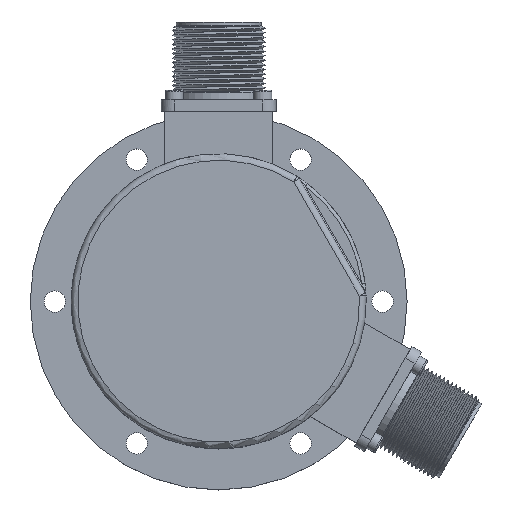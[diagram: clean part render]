
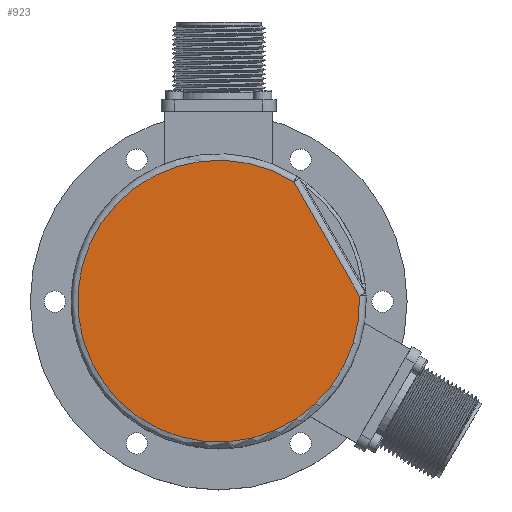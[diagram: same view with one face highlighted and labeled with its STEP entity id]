
A CAD part, top view. The second image highlights one B-rep face of the part: STEP entity #923.
In plain terms, the highlighted planar face has unit normal (0, 0, 1).
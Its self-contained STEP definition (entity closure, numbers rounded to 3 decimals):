
#923 = ADVANCED_FACE( '', ( #2360 ), #2361, .F. );
#2360 = FACE_OUTER_BOUND( '', #5030, .T. );
#2361 = PLANE( '', #5031 );
#5030 = EDGE_LOOP( '', ( #11734, #11735 ) );
#5031 = AXIS2_PLACEMENT_3D( '', #11736, #11737, #11738 );
#11734 = ORIENTED_EDGE( '', *, *, #15297, .T. );
#11735 = ORIENTED_EDGE( '', *, *, #15531, .T. );
#11736 = CARTESIAN_POINT( '', ( 0., 0., 44.5 ) );
#11737 = DIRECTION( '', ( 0., 0., -1. ) );
#11738 = DIRECTION( '', ( -0.866, -0.5, 0. ) );
#15297 = EDGE_CURVE( '', #17100, #17101, #17102, .T. );
#15531 = EDGE_CURVE( '', #17101, #17100, #17473, .T. );
#17100 = VERTEX_POINT( '', #20208 );
#17101 = VERTEX_POINT( '', #20209 );
#17102 = CIRCLE( '', #20210, 43. );
#17473 = LINE( '', #21541, #21542 );
#20208 = CARTESIAN_POINT( '', ( 22.847, 36.428, 44.5 ) );
#20209 = CARTESIAN_POINT( '', ( 42.971, 1.572, 44.5 ) );
#20210 = AXIS2_PLACEMENT_3D( '', #26271, #26272, #26273 );
#21541 = CARTESIAN_POINT( '', ( 25.019, 32.666, 44.5 ) );
#21542 = VECTOR( '', #26599, 1000. );
#26271 = CARTESIAN_POINT( '', ( 0., 0., 44.5 ) );
#26272 = DIRECTION( '', ( 0., 0., 1. ) );
#26273 = DIRECTION( '', ( -0.5, 0.866, 0. ) );
#26599 = DIRECTION( '', ( -0.5, 0.866, 0. ) );
